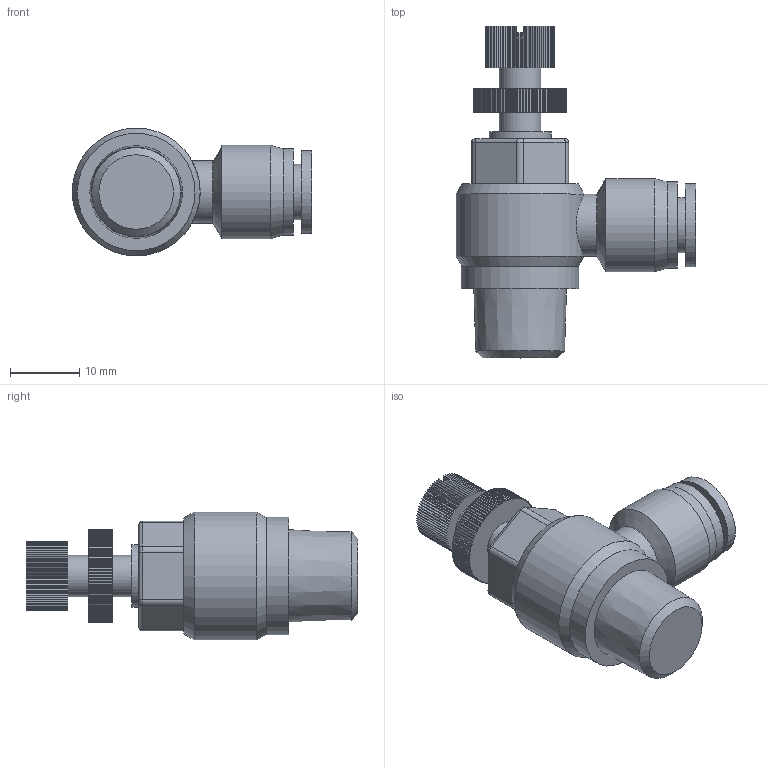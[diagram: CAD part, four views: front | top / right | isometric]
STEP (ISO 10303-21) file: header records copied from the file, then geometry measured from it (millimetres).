
FILE_DESCRIPTION((''),'2;1');
FILE_NAME('S:\UTecnico\ArchivioUT\Speciali Clienti\Speciali KONFIT\DISEGNI 3D\DP\DP 79\DP79KP1406.stp','2013-03-07T14:54:06',('UT5'),(''),'Autodesk Inventor 2013','Autodesk Inventor 2013','');
FILE_SCHEMA(('AUTOMOTIVE_DESIGN { 1 0 10303 214 1 1 1 1 }'));
Length unit declared in the file: millimetre
Products named in the file (1): DP79KP1406
Bounding box: 34.65 x 48 x 18.5 mm (x, y, z)
Volume: 8680.6 mm3; surface area: 4276.5 mm2
Topology: 1 solids, 1 shells, 519 faces, 1497 edges, 991 vertices
Faces by surface type: plane 384, cylinder 123, bspline 6, cone 6
Full cylindrical faces by diameter (mm): 6 x3, 8 x1, 9 x2, 12 x1, 12.5 x1, 13.5 x1, 17 x1, 18.5 x1
Entity records: 17051 total; most frequent: CARTESIAN_POINT 3205, ORIENTED_EDGE 2960, DIRECTION 2762, EDGE_CURVE 1480, VECTOR 1222, LINE 1222, VERTEX_POINT 990, AXIS2_PLACEMENT_3D 770
